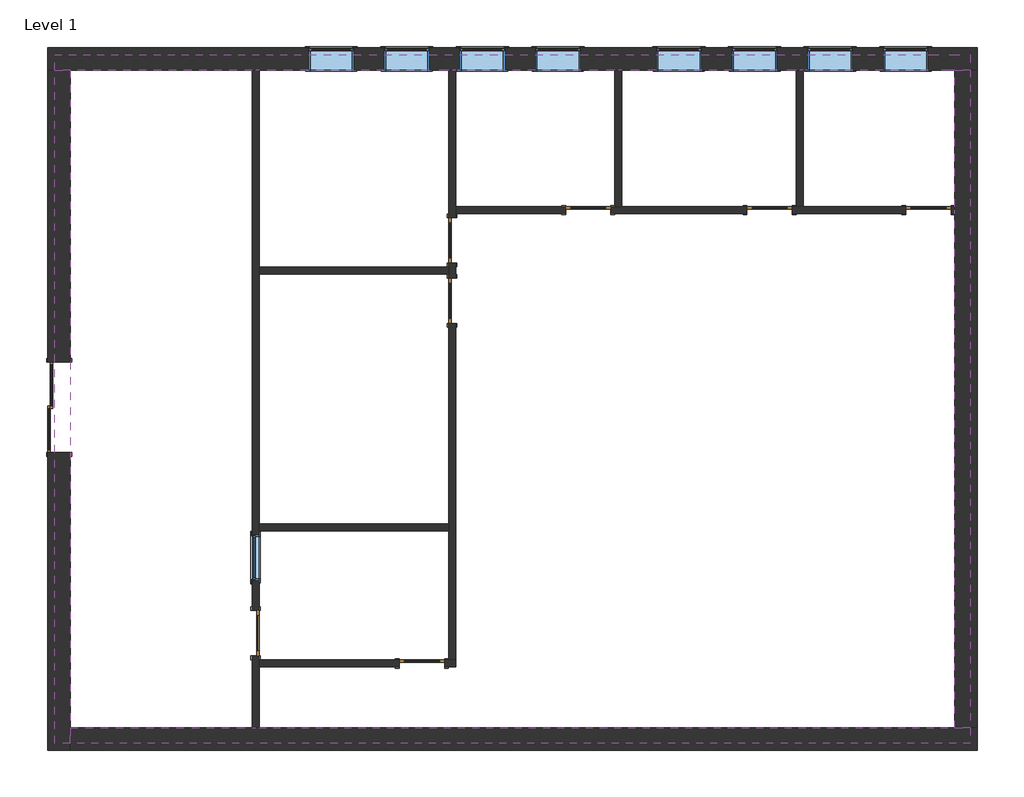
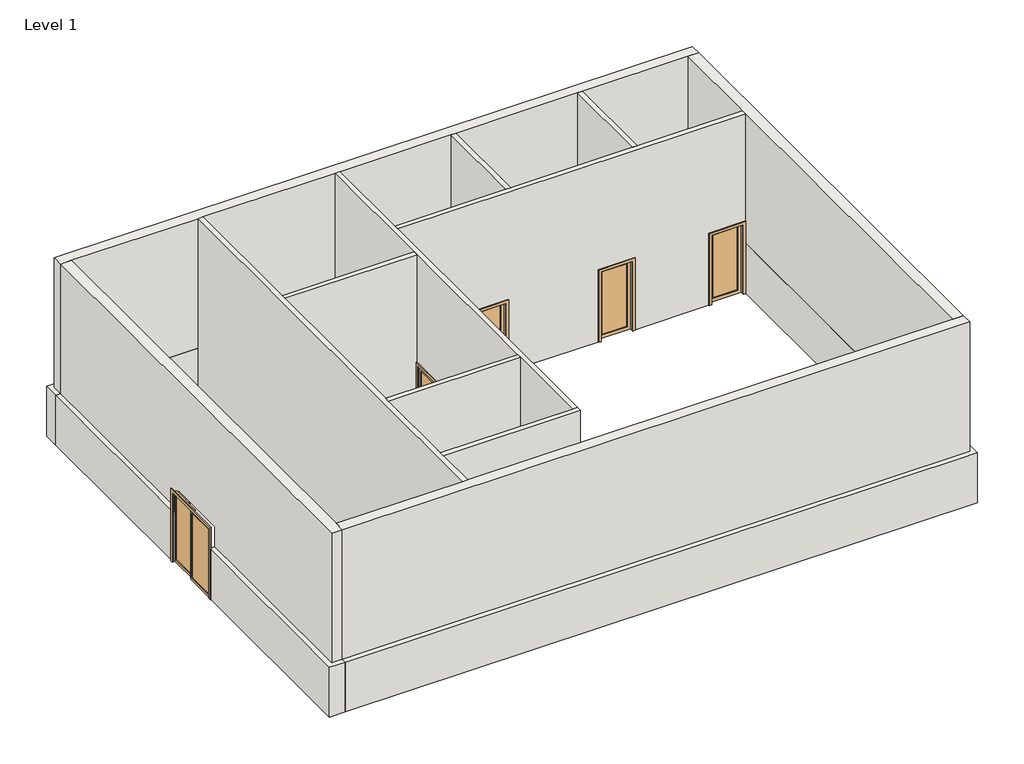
# One storey: 16 walls, 9 windows, 8 doors.
"""IFC4 building model written with IfcOpenShell, lengths in millimetres."""

from ifc_helpers import new_model, si_unit, origin, origin_with_axes, place, context, project, spatial, polyline, outline, extrude, faceted_brep, transform, mapped, element, save
from components import door_e49b49a8, door_4364fc02, door_77bef7fc, window_847ece41, window_8f1c9775, window_29cdd4cc

model = new_model("IFC4")

# Units and contexts
model_context = context("Model", 3, world=origin())
ifc_project = project(units=[si_unit("LENGTHUNIT", "METRE", prefix="MILLI")], contexts=[model_context])

# Site, building, storey
site = spatial("IfcSite", under=ifc_project)
building = spatial("IfcBuilding", under=site)
storey = spatial("IfcBuildingStorey", under=building, Name="Level 1", Elevation=0.0)

# Doors
placement = place(None, origin())
door_shape = door_e49b49a8(model_context)
element("IfcDoor", 1, ObjectType="Single-Glass 1 : 36\" x 84\"", at=placement, inside=storey, context=model_context, shape_type="MappedRepresentation", body=[
    mapped(door_shape, transform((-6880.8228216, -8110.1815151, 0.0), x_axis=(0.0, -1.0, 0.0), y_axis=(1.0, 0.0, 0.0), z_axis=(0.0, 0.0, 1.0))),
])
element("IfcDoor", 2, ObjectType="Single-Glass 1 : 36\" x 84\"", at=placement, inside=storey, context=model_context, shape_type="MappedRepresentation", body=[
    mapped(door_shape, transform((-3528.0228216, -8719.7815151, 0.0), x_axis=(1.0, 0.0, 0.0), y_axis=(0.0, 1.0, 0.0), z_axis=(0.0, 0.0, 1.0))),
])
element("IfcDoor", 3, ObjectType="Single-Glass 1 : 36\" x 84\"", at=placement, inside=storey, context=model_context, shape_type="MappedRepresentation", body=[
    mapped(door_shape, transform((-2918.4228216, -1404.5815151, 0.0), x_axis=(0.0, 1.0, 0.0), y_axis=(-1.0, 0.0, 0.0), z_axis=(0.0, 0.0, 1.0))),
])
element("IfcDoor", 4, ObjectType="Single-Glass 1 : 36\" x 84\"", at=placement, inside=storey, context=model_context, shape_type="MappedRepresentation", body=[
    mapped(door_shape, transform((-175.2228216, 424.2184849, 0.0), x_axis=(1.0, 0.0, 0.0), y_axis=(0.0, 1.0, 0.0), z_axis=(0.0, 0.0, 1.0))),
])
element("IfcDoor", 5, ObjectType="Single-Glass 1 : 36\" x 84\"", at=placement, inside=storey, context=model_context, shape_type="MappedRepresentation", body=[
    mapped(door_shape, transform((3482.3771784, 424.2184849, 0.0), x_axis=(1.0, 0.0, 0.0), y_axis=(0.0, 1.0, 0.0), z_axis=(0.0, 0.0, 1.0))),
])
element("IfcDoor", 6, ObjectType="Single-Glass 1 : 36\" x 84\"", at=placement, inside=storey, context=model_context, shape_type="MappedRepresentation", body=[
    mapped(door_shape, transform((6682.7771784, 424.2184849, 0.0), x_axis=(1.0, 0.0, 0.0), y_axis=(0.0, 1.0, 0.0), z_axis=(0.0, 0.0, 1.0))),
])
door_2_shape = door_4364fc02(model_context)
element("IfcDoor", 7, ObjectType="Single-Glass 1 : 36\" x 84\"", at=placement, inside=storey, context=model_context, shape_type="MappedRepresentation", body=[
    mapped(door_2_shape, transform((-2918.4228216, -185.3815151, 0.0), x_axis=(0.0, -1.0, 0.0), y_axis=(1.0, 0.0, 0.0), z_axis=(0.0, 0.0, 1.0))),
])
door_3_shape = door_77bef7fc(model_context)
element("IfcDoor", 8, ObjectType="Sliding-2 panel : 72\" x 84\"", at=placement, inside=storey, context=model_context, shape_type="MappedRepresentation", body=[
    mapped(door_3_shape, transform((-10716.2228216, -3555.1790911, 0.0), x_axis=(0.0, 1.0, 0.0), y_axis=(-1.0, 0.0, 0.0), z_axis=(0.0, 0.0, 1.0))),
])

# Walls
element("IfcWall", 9, ObjectType="Exterior - CMU on Mtl. Stud", at=placement, inside=storey, context=model_context, shape_type="Brep", body=[
    faceted_brep([(-11070.2353216, 3245.2059849, 0.0), (-10616.2103216, 3245.2059849, 0.0), (-6950.6728216, 3245.2059849, 0.0), (-6810.9728216, 3245.2059849, 0.0), (-2988.2728216, 3245.2059849, 0.0), (-2848.5728216, 3245.2059849, 0.0), (364.5271784, 3245.2059849, 0.0), (504.2271784, 3245.2059849, 0.0), (4022.1271784, 3245.2059849, 0.0), (4161.8271784, 3245.2059849, 0.0), (7217.7646784, 3245.2059849, 0.0), (7671.7896784, 3245.2059849, 0.0), (7671.7896784, 3245.2059849, 1524.0), (7528.9146784, 3245.2059849, 1524.0), (7217.7646784, 3245.2059849, 1524.0), (6682.7771784, 3245.2059849, 1524.0), (6682.7771784, 3245.2059849, 914.4), (5768.3771784, 3245.2059849, 914.4), (5768.3771784, 3245.2059849, 1524.0), (5158.7771784, 3245.2059849, 1524.0), (5158.7771784, 3245.2059849, 914.4), (4244.3771784, 3245.2059849, 914.4), (4244.3771784, 3245.2059849, 1524.0), (3634.7771784, 3245.2059849, 1524.0), (3634.7771784, 3245.2059849, 914.4), (2720.3771784, 3245.2059849, 914.4), (2720.3771784, 3245.2059849, 1524.0), (2110.7771784, 3245.2059849, 1524.0), (2110.7771784, 3245.2059849, 914.4), (1196.3771784, 3245.2059849, 914.4), (1196.3771784, 3245.2059849, 1524.0), (-327.6228216, 3245.2059849, 1524.0), (-327.6228216, 3245.2059849, 914.4), (-1242.0228216, 3245.2059849, 914.4), (-1242.0228216, 3245.2059849, 1524.0), (-1851.6228216, 3245.2059849, 1524.0), (-1851.6228216, 3245.2059849, 914.4), (-2766.0228216, 3245.2059849, 914.4), (-2766.0228216, 3245.2059849, 1524.0), (-3375.6228216, 3245.2059849, 1524.0), (-3375.6228216, 3245.2059849, 914.4), (-4290.0228216, 3245.2059849, 914.4), (-4290.0228216, 3245.2059849, 1524.0), (-4899.6228216, 3245.2059849, 1524.0), (-4899.6228216, 3245.2059849, 914.4), (-5814.0228216, 3245.2059849, 914.4), (-5814.0228216, 3245.2059849, 1524.0), (-10616.2103216, 3245.2059849, 1524.0), (-10927.3603216, 3245.2059849, 1524.0), (-11070.2353216, 3245.2059849, 1524.0), (7671.7896784, 3699.2309849, 0.0), (-11070.2353216, 3699.2309849, 0.0), (-11070.2353216, 3699.2309849, 1524.0), (-5814.0228216, 3699.2309849, 1524.0), (-5814.0228216, 3699.2309849, 914.4), (-4899.6228216, 3699.2309849, 914.4), (-4899.6228216, 3699.2309849, 1524.0), (-4290.0228216, 3699.2309849, 1524.0), (-4290.0228216, 3699.2309849, 914.4), (-3375.6228216, 3699.2309849, 914.4), (-3375.6228216, 3699.2309849, 1524.0), (-2766.0228216, 3699.2309849, 1524.0), (-2766.0228216, 3699.2309849, 914.4), (-1851.6228216, 3699.2309849, 914.4), (-1851.6228216, 3699.2309849, 1524.0), (-1242.0228216, 3699.2309849, 1524.0), (-1242.0228216, 3699.2309849, 914.4), (-327.6228216, 3699.2309849, 914.4), (-327.6228216, 3699.2309849, 1524.0), (1196.3771784, 3699.2309849, 1524.0), (1196.3771784, 3699.2309849, 914.4), (2110.7771784, 3699.2309849, 914.4), (2110.7771784, 3699.2309849, 1524.0), (2720.3771784, 3699.2309849, 1524.0), (2720.3771784, 3699.2309849, 914.4), (3634.7771784, 3699.2309849, 914.4), (3634.7771784, 3699.2309849, 1524.0), (4244.3771784, 3699.2309849, 1524.0), (4244.3771784, 3699.2309849, 914.4), (5158.7771784, 3699.2309849, 914.4), (5158.7771784, 3699.2309849, 1524.0), (5768.3771784, 3699.2309849, 1524.0), (5768.3771784, 3699.2309849, 914.4), (6682.7771784, 3699.2309849, 914.4), (6682.7771784, 3699.2309849, 1524.0), (7671.7896784, 3699.2309849, 1524.0), (-5814.0228216, 3556.3559849, 1524.0), (6682.7771784, 3556.3559849, 1524.0), (5158.7771784, 3556.3559849, 1524.0), (5768.3771784, 3556.3559849, 1524.0), (4244.3771784, 3556.3559849, 1524.0), (3634.7771784, 3556.3559849, 1524.0), (2720.3771784, 3556.3559849, 1524.0), (2110.7771784, 3556.3559849, 1524.0), (1196.3771784, 3556.3559849, 1524.0), (-327.6228216, 3556.3559849, 1524.0), (-1242.0228216, 3556.3559849, 1524.0), (-1851.6228216, 3556.3559849, 1524.0), (-2766.0228216, 3556.3559849, 1524.0), (-3375.6228216, 3556.3559849, 1524.0), (-4899.6228216, 3556.3559849, 1524.0), (-4290.0228216, 3556.3559849, 1524.0)], [[[0, 1, 2, 3, 4, 5, 6, 7, 8, 9, 10, 11, 12, 13, 14, 15, 16, 17, 18, 19, 20, 21, 22, 23, 24, 25, 26, 27, 28, 29, 30, 31, 32, 33, 34, 35, 36, 37, 38, 39, 40, 41, 42, 43, 44, 45, 46, 47, 48, 49]], [[50, 51, 52, 53, 54, 55, 56, 57, 58, 59, 60, 61, 62, 63, 64, 65, 66, 67, 68, 69, 70, 71, 72, 73, 74, 75, 76, 77, 78, 79, 80, 81, 82, 83, 84, 85]], [[11, 10, 9, 8, 7, 6, 5, 4, 3, 2, 1, 0, 51, 50]], [[52, 49, 48, 47, 46, 86, 53]], [[12, 85, 84, 87, 15, 14, 13]], [[80, 88, 19, 18, 89, 81]], [[22, 90, 77, 76, 91, 23]], [[26, 92, 73, 72, 93, 27]], [[30, 94, 69, 68, 95, 31]], [[34, 96, 65, 64, 97, 35]], [[38, 98, 61, 60, 99, 39]], [[56, 100, 43, 42, 101, 57]], [[0, 49, 52, 51]], [[12, 11, 50, 85]], [[79, 20, 19, 88, 80]], [[20, 79, 78, 21]], [[21, 78, 77, 90, 22]], [[83, 16, 15, 87, 84]], [[16, 83, 82, 17]], [[17, 82, 81, 89, 18]], [[75, 24, 23, 91, 76]], [[24, 75, 74, 25]], [[25, 74, 73, 92, 26]], [[71, 28, 27, 93, 72]], [[28, 71, 70, 29]], [[29, 70, 69, 94, 30]], [[33, 66, 65, 96, 34]], [[66, 33, 32, 67]], [[67, 32, 31, 95, 68]], [[37, 62, 61, 98, 38]], [[62, 37, 36, 63]], [[63, 36, 35, 97, 64]], [[45, 54, 53, 86, 46]], [[54, 45, 44, 55]], [[55, 44, 43, 100, 56]], [[41, 58, 57, 101, 42]], [[58, 41, 40, 59]], [[59, 40, 39, 99, 60]]]),
])
element("IfcWall", 10, ObjectType="Exterior - CMU on Mtl. Stud", at=placement, inside=storey, context=model_context, shape_type="Brep", body=[
    faceted_brep([(-10616.2103216, 3245.2059849, 0.0), (-10616.2103216, 3245.2059849, 1524.0), (-10616.2103216, -2640.7790911, 1524.0), (-10616.2103216, -2640.7790911, 0.0), (-11070.2353216, 3245.2059849, 1524.0), (-11070.2353216, 3245.2059849, 0.0), (-11070.2353216, -2640.7790911, 0.0), (-11070.2353216, -2640.7790911, 1524.0), (-10927.3603216, 3245.2059849, 1524.0), (-10927.3603216, -2640.7790911, 1524.0)], [[[0, 1, 2, 3]], [[4, 5, 6, 7]], [[5, 0, 3, 6]], [[1, 8, 4, 7, 9, 2]], [[1, 0, 5, 4, 8]], [[3, 2, 9, 7, 6]]]),
    faceted_brep([(-10616.2103216, -10470.7940151, 1524.0), (-10616.2103216, -10470.7940151, 0.0), (-10616.2103216, -10016.7690151, 0.0), (-10616.2103216, -4469.5790911, 0.0), (-10616.2103216, -4469.5790911, 1524.0), (-10616.2103216, -10016.7690151, 1524.0), (-10616.2103216, -10327.9190151, 1524.0), (-11070.2353216, -10470.7940151, 0.0), (-11070.2353216, -10470.7940151, 1524.0), (-11070.2353216, -4469.5790911, 1524.0), (-11070.2353216, -4469.5790911, 0.0), (-10927.3603216, -4469.5790911, 1524.0)], [[[0, 1, 2, 3, 4, 5, 6]], [[7, 8, 9, 10]], [[1, 7, 10, 3, 2]], [[8, 0, 6, 5, 4, 11, 9]], [[1, 0, 8, 7]], [[4, 3, 10, 9, 11]]]),
])
element("IfcWall", 11, ObjectType="Exterior - CMU on Mtl. Stud", at=placement, inside=storey, context=model_context, shape_type="Brep", body=[
    faceted_brep([(7671.7896784, -10016.7690151, 0.0), (7217.7646784, -10016.7690151, 0.0), (-6810.9728216, -10016.7690151, 0.0), (-6950.6728216, -10016.7690151, 0.0), (-10616.2103216, -10016.7690151, 0.0), (-10616.2103216, -10016.7690151, 1524.0), (7217.7646784, -10016.7690151, 1524.0), (7528.9146784, -10016.7690151, 1524.0), (7671.7896784, -10016.7690151, 1524.0), (7671.7896784, -10470.7940151, 0.0), (7671.7896784, -10470.7940151, 1524.0), (-10616.2103216, -10470.7940151, 1524.0), (-10616.2103216, -10470.7940151, 0.0), (-10616.2103216, -10327.9190151, 1524.0)], [[[0, 1, 2, 3, 4, 5, 6, 7, 8]], [[9, 10, 11, 12]], [[4, 3, 2, 1, 0, 9, 12]], [[8, 7, 6, 5, 13, 11, 10]], [[0, 8, 10, 9]], [[5, 4, 12, 11, 13]]]),
])
element("IfcWall", 12, ObjectType="Exterior - CMU on Mtl. Stud", at=placement, inside=storey, context=model_context, shape_type="Brep", body=[
    faceted_brep([(7217.7646784, 3245.2059849, 0.0), (7217.7646784, -10016.7690151, 0.0), (7217.7646784, -10016.7690151, 1524.0), (7217.7646784, 3245.2059849, 1524.0), (7671.7896784, 3245.2059849, 0.0), (7671.7896784, 3245.2059849, 1524.0), (7671.7896784, -10016.7690151, 1524.0), (7671.7896784, -10016.7690151, 0.0), (7528.9146784, -10016.7690151, 1524.0), (7528.9146784, 3245.2059849, 1524.0)], [[[0, 1, 2, 3]], [[4, 5, 6, 7]], [[1, 0, 4, 7]], [[3, 2, 8, 6, 5, 9]], [[0, 3, 9, 5, 4]], [[2, 1, 7, 6, 8]]]),
])
element("IfcWall", 13, ObjectType="Exterior - EIFS on Mtl. Stud", at=placement, inside=storey, context=model_context, shape_type="Brep", body=[
    faceted_brep([(7528.9146784, 3245.2059849, 5486.4), (7217.7646784, 3245.2059849, 5486.4), (4161.8271784, 3245.2059849, 5486.4), (4022.1271784, 3245.2059849, 5486.4), (504.2271784, 3245.2059849, 5486.4), (364.5271784, 3245.2059849, 5486.4), (-2848.5728216, 3245.2059849, 5486.4), (-2988.2728216, 3245.2059849, 5486.4), (-6810.9728216, 3245.2059849, 5486.4), (-6950.6728216, 3245.2059849, 5486.4), (-10616.2103216, 3245.2059849, 5486.4), (-10927.3603216, 3245.2059849, 5486.4), (-10927.3603216, 3245.2059849, 1524.0), (-10616.2103216, 3245.2059849, 1524.0), (-5814.0228216, 3245.2059849, 1524.0), (-5814.0228216, 3245.2059849, 2133.6), (-4899.6228216, 3245.2059849, 2133.6), (-4899.6228216, 3245.2059849, 1524.0), (-4290.0228216, 3245.2059849, 1524.0), (-4290.0228216, 3245.2059849, 2133.6), (-3375.6228216, 3245.2059849, 2133.6), (-3375.6228216, 3245.2059849, 1524.0), (-2766.0228216, 3245.2059849, 1524.0), (-2766.0228216, 3245.2059849, 2133.6), (-1851.6228216, 3245.2059849, 2133.6), (-1851.6228216, 3245.2059849, 1524.0), (-1242.0228216, 3245.2059849, 1524.0), (-1242.0228216, 3245.2059849, 2133.6), (-327.6228216, 3245.2059849, 2133.6), (-327.6228216, 3245.2059849, 1524.0), (1196.3771784, 3245.2059849, 1524.0), (1196.3771784, 3245.2059849, 2133.6), (2110.7771784, 3245.2059849, 2133.6), (2110.7771784, 3245.2059849, 1524.0), (2720.3771784, 3245.2059849, 1524.0), (2720.3771784, 3245.2059849, 2133.6), (3634.7771784, 3245.2059849, 2133.6), (3634.7771784, 3245.2059849, 1524.0), (4244.3771784, 3245.2059849, 1524.0), (4244.3771784, 3245.2059849, 2133.6), (5158.7771784, 3245.2059849, 2133.6), (5158.7771784, 3245.2059849, 1524.0), (5768.3771784, 3245.2059849, 1524.0), (5768.3771784, 3245.2059849, 2133.6), (6682.7771784, 3245.2059849, 2133.6), (6682.7771784, 3245.2059849, 1524.0), (7217.7646784, 3245.2059849, 1524.0), (7528.9146784, 3245.2059849, 1524.0), (-10927.3603216, 3556.3559849, 5486.4), (7528.9146784, 3556.3559849, 5486.4), (7528.9146784, 3556.3559849, 1524.0), (6682.7771784, 3556.3559849, 1524.0), (6682.7771784, 3556.3559849, 2133.6), (5768.3771784, 3556.3559849, 2133.6), (5768.3771784, 3556.3559849, 1524.0), (5158.7771784, 3556.3559849, 1524.0), (5158.7771784, 3556.3559849, 2133.6), (4244.3771784, 3556.3559849, 2133.6), (4244.3771784, 3556.3559849, 1524.0), (3634.7771784, 3556.3559849, 1524.0), (3634.7771784, 3556.3559849, 2133.6), (2720.3771784, 3556.3559849, 2133.6), (2720.3771784, 3556.3559849, 1524.0), (2110.7771784, 3556.3559849, 1524.0), (2110.7771784, 3556.3559849, 2133.6), (1196.3771784, 3556.3559849, 2133.6), (1196.3771784, 3556.3559849, 1524.0), (-327.6228216, 3556.3559849, 1524.0), (-327.6228216, 3556.3559849, 2133.6), (-1242.0228216, 3556.3559849, 2133.6), (-1242.0228216, 3556.3559849, 1524.0), (-1851.6228216, 3556.3559849, 1524.0), (-1851.6228216, 3556.3559849, 2133.6), (-2766.0228216, 3556.3559849, 2133.6), (-2766.0228216, 3556.3559849, 1524.0), (-3375.6228216, 3556.3559849, 1524.0), (-3375.6228216, 3556.3559849, 2133.6), (-4290.0228216, 3556.3559849, 2133.6), (-4290.0228216, 3556.3559849, 1524.0), (-4899.6228216, 3556.3559849, 1524.0), (-4899.6228216, 3556.3559849, 2133.6), (-5814.0228216, 3556.3559849, 2133.6), (-5814.0228216, 3556.3559849, 1524.0), (-10927.3603216, 3556.3559849, 1524.0)], [[[0, 1, 2, 3, 4, 5, 6, 7, 8, 9, 10, 11, 12, 13, 14, 15, 16, 17, 18, 19, 20, 21, 22, 23, 24, 25, 26, 27, 28, 29, 30, 31, 32, 33, 34, 35, 36, 37, 38, 39, 40, 41, 42, 43, 44, 45, 46, 47]], [[48, 49, 50, 51, 52, 53, 54, 55, 56, 57, 58, 59, 60, 61, 62, 63, 64, 65, 66, 67, 68, 69, 70, 71, 72, 73, 74, 75, 76, 77, 78, 79, 80, 81, 82, 83]], [[12, 83, 82, 14, 13]], [[50, 47, 46, 45, 51]], [[41, 55, 54, 42]], [[58, 38, 37, 59]], [[62, 34, 33, 63]], [[66, 30, 29, 67]], [[70, 26, 25, 71]], [[74, 22, 21, 75]], [[17, 79, 78, 18]], [[11, 10, 9, 8, 7, 6, 5, 4, 3, 2, 1, 0, 49, 48]], [[12, 11, 48, 83]], [[0, 47, 50, 49]], [[40, 56, 55, 41]], [[57, 39, 38, 58]], [[56, 40, 39, 57]], [[44, 52, 51, 45]], [[53, 43, 42, 54]], [[52, 44, 43, 53]], [[36, 60, 59, 37]], [[61, 35, 34, 62]], [[60, 36, 35, 61]], [[32, 64, 63, 33]], [[65, 31, 30, 66]], [[64, 32, 31, 65]], [[69, 27, 26, 70]], [[28, 68, 67, 29]], [[27, 69, 68, 28]], [[73, 23, 22, 74]], [[24, 72, 71, 25]], [[23, 73, 72, 24]], [[81, 15, 14, 82]], [[16, 80, 79, 17]], [[15, 81, 80, 16]], [[77, 19, 18, 78]], [[20, 76, 75, 21]], [[19, 77, 76, 20]]]),
])
element("IfcWall", 14, ObjectType="Exterior - EIFS on Mtl. Stud", at=placement, inside=storey, context=model_context, shape_type="Brep", body=[
    faceted_brep([(-10616.2103216, 3245.2059849, 5486.4), (-10616.2103216, -10016.7690151, 5486.4), (-10616.2103216, -10327.9190151, 5486.4), (-10616.2103216, -10327.9190151, 1524.0), (-10616.2103216, -10016.7690151, 1524.0), (-10616.2103216, -4469.5790911, 1524.0), (-10616.2103216, -4469.5790911, 2133.6), (-10616.2103216, -2640.7790911, 2133.6), (-10616.2103216, -2640.7790911, 1524.0), (-10616.2103216, 3245.2059849, 1524.0), (-10927.3603216, -10327.9190151, 5486.4), (-10927.3603216, 3245.2059849, 5486.4), (-10927.3603216, 3245.2059849, 1524.0), (-10927.3603216, -2640.7790911, 1524.0), (-10927.3603216, -2640.7790911, 2133.6), (-10927.3603216, -4469.5790911, 2133.6), (-10927.3603216, -4469.5790911, 1524.0), (-10927.3603216, -10327.9190151, 1524.0)], [[[0, 1, 2, 3, 4, 5, 6, 7, 8, 9]], [[10, 11, 12, 13, 14, 15, 16, 17]], [[3, 17, 16, 5, 4]], [[12, 9, 8, 13]], [[2, 1, 0, 11, 10]], [[3, 2, 10, 17]], [[0, 9, 12, 11]], [[15, 6, 5, 16]], [[7, 14, 13, 8]], [[6, 15, 14, 7]]]),
])
element("IfcWall", 15, ObjectType="Exterior - EIFS on Mtl. Stud", at=placement, inside=storey, context=model_context, shape_type="Brep", body=[
    faceted_brep([(7528.9146784, -10016.7690151, 1524.0), (7217.7646784, -10016.7690151, 1524.0), (-10616.2103216, -10016.7690151, 1524.0), (-10616.2103216, -10016.7690151, 5486.4), (-6950.6728216, -10016.7690151, 5486.4), (-6810.9728216, -10016.7690151, 5486.4), (7217.7646784, -10016.7690151, 5486.4), (7528.9146784, -10016.7690151, 5486.4), (7528.9146784, -10327.9190151, 1524.0), (7528.9146784, -10327.9190151, 5486.4), (-10616.2103216, -10327.9190151, 5486.4), (-10616.2103216, -10327.9190151, 1524.0)], [[[0, 1, 2, 3, 4, 5, 6, 7]], [[8, 9, 10, 11]], [[2, 1, 0, 8, 11]], [[7, 6, 5, 4, 3, 10, 9]], [[0, 7, 9, 8]], [[3, 2, 11, 10]]]),
])
element("IfcWall", 16, ObjectType="Exterior - EIFS on Mtl. Stud", at=placement, inside=storey, context=model_context, shape_type="Brep", body=[
    faceted_brep([(7217.7646784, 3245.2059849, 1524.0), (7217.7646784, -10016.7690151, 1524.0), (7217.7646784, -10016.7690151, 5486.4), (7217.7646784, 354.3684849, 5486.4), (7217.7646784, 494.0684849, 5486.4), (7217.7646784, 3245.2059849, 5486.4), (7528.9146784, 3245.2059849, 1524.0), (7528.9146784, 3245.2059849, 5486.4), (7528.9146784, -10016.7690151, 5486.4), (7528.9146784, -10016.7690151, 1524.0)], [[[0, 1, 2, 3, 4, 5]], [[6, 7, 8, 9]], [[1, 0, 6, 9]], [[5, 4, 3, 2, 8, 7]], [[0, 5, 7, 6]], [[2, 1, 9, 8]]]),
])
element("IfcWall", 17, ObjectType="Interior - 5 1/2\" Partition (1-hr)", at=placement, inside=storey, context=model_context, shape_type="Brep", body=[
    faceted_brep([(-6950.6728216, -8567.3815151, 2133.6), (-6950.6728216, -8567.3815151, 0.0), (-6950.6728216, -10016.7690151, 0.0), (-6950.6728216, -10016.7690151, 5486.4), (-6950.6728216, 3245.2059849, 5486.4), (-6950.6728216, 3245.2059849, 0.0), (-6950.6728216, -7652.9815151, 0.0), (-6950.6728216, -7652.9815151, 2133.6), (-6950.6728216, -6128.9815151, 2133.6), (-6950.6728216, -7043.3815151, 2133.6), (-6950.6728216, -7043.3815151, 914.4), (-6950.6728216, -6128.9815151, 914.4), (-6810.9728216, -10016.7690151, 0.0), (-6810.9728216, -8789.6315151, 0.0), (-6810.9728216, -8649.9315151, 0.0), (-6810.9728216, -8567.3815151, 0.0), (-6810.9728216, -8567.3815151, 2133.6), (-6810.9728216, -7652.9815151, 2133.6), (-6810.9728216, -7652.9815151, 0.0), (-6810.9728216, -6046.4315151, 0.0), (-6810.9728216, -5906.7315151, 0.0), (-6810.9728216, -864.8315151, 0.0), (-6810.9728216, -725.1315151, 0.0), (-6810.9728216, 3245.2059849, 0.0), (-6810.9728216, 3245.2059849, 5486.4), (-6810.9728216, -725.1315151, 5486.4), (-6810.9728216, -864.8315151, 5486.4), (-6810.9728216, -5906.7315151, 5486.4), (-6810.9728216, -6046.4315151, 5486.4), (-6810.9728216, -8649.9315151, 5486.4), (-6810.9728216, -8789.6315151, 5486.4), (-6810.9728216, -10016.7690151, 5486.4), (-6810.9728216, -6128.9815151, 2133.6), (-6810.9728216, -6128.9815151, 914.4), (-6810.9728216, -7043.3815151, 914.4), (-6810.9728216, -7043.3815151, 2133.6)], [[[0, 1, 2, 3, 4, 5, 6, 7], [8, 9, 10, 11]], [[12, 13, 14, 15, 16, 17, 18, 19, 20, 21, 22, 23, 24, 25, 26, 27, 28, 29, 30, 31], [32, 33, 34, 35]], [[6, 5, 23, 22, 21, 20, 19, 18]], [[2, 1, 15, 14, 13, 12]], [[4, 3, 31, 30, 29, 28, 27, 26, 25, 24]], [[2, 12, 31, 3]], [[16, 15, 1, 0]], [[17, 16, 0, 7]], [[18, 17, 7, 6]], [[33, 32, 8, 11]], [[34, 33, 11, 10]], [[35, 34, 10, 9]], [[32, 35, 9, 8]], [[4, 24, 23, 5]]]),
])
element("IfcWall", 18, ObjectType="Interior - 5 1/2\" Partition (1-hr)", at=placement, inside=storey, context=model_context, shape_type="Brep", body=[
    faceted_brep([(-3070.8228216, -8789.6315151, 2133.6), (-3070.8228216, -8789.6315151, 0.0), (-2848.5728216, -8789.6315151, 0.0), (-2848.5728216, -8789.6315151, 5486.4), (-6810.9728216, -8789.6315151, 5486.4), (-6810.9728216, -8789.6315151, 0.0), (-3985.2228216, -8789.6315151, 0.0), (-3985.2228216, -8789.6315151, 2133.6), (-2848.5728216, -8649.9315151, 0.0), (-2988.2728216, -8649.9315151, 0.0), (-3070.8228216, -8649.9315151, 0.0), (-3070.8228216, -8649.9315151, 2133.6), (-3985.2228216, -8649.9315151, 2133.6), (-3985.2228216, -8649.9315151, 0.0), (-6810.9728216, -8649.9315151, 0.0), (-6810.9728216, -8649.9315151, 5486.4), (-2988.2728216, -8649.9315151, 5486.4), (-2848.5728216, -8649.9315151, 5486.4)], [[[0, 1, 2, 3, 4, 5, 6, 7]], [[8, 9, 10, 11, 12, 13, 14, 15, 16, 17]], [[6, 5, 14, 13]], [[2, 1, 10, 9, 8]], [[4, 3, 17, 16, 15]], [[5, 4, 15, 14]], [[3, 2, 8, 17]], [[11, 10, 1, 0]], [[12, 11, 0, 7]], [[13, 12, 7, 6]]]),
])
element("IfcWall", 19, ObjectType="Interior - 5 1/2\" Partition (1-hr)", at=placement, inside=storey, context=model_context, shape_type="Brep", body=[
    faceted_brep([(-2848.5728216, -947.3815151, 0.0), (-2848.5728216, -642.5815151, 0.0), (-2848.5728216, -642.5815151, 2133.6), (-2848.5728216, 271.8184849, 2133.6), (-2848.5728216, 271.8184849, 0.0), (-2848.5728216, 354.3684849, 0.0), (-2848.5728216, 494.0684849, 0.0), (-2848.5728216, 3245.2059849, 0.0), (-2848.5728216, 3245.2059849, 5486.4), (-2848.5728216, 494.0684849, 5486.4), (-2848.5728216, 354.3684849, 5486.4), (-2848.5728216, -8649.9315151, 5486.4), (-2848.5728216, -8649.9315151, 0.0), (-2848.5728216, -1861.7815151, 0.0), (-2848.5728216, -1861.7815151, 2133.6), (-2848.5728216, -947.3815151, 2133.6), (-2988.2728216, -642.5815151, 2133.6), (-2988.2728216, -642.5815151, 0.0), (-2988.2728216, -725.1315151, 0.0), (-2988.2728216, -864.8315151, 0.0), (-2988.2728216, -947.3815151, 0.0), (-2988.2728216, -947.3815151, 2133.6), (-2988.2728216, -1861.7815151, 2133.6), (-2988.2728216, -1861.7815151, 0.0), (-2988.2728216, -5906.7315151, 0.0), (-2988.2728216, -6046.4315151, 0.0), (-2988.2728216, -8649.9315151, 0.0), (-2988.2728216, -8649.9315151, 5486.4), (-2988.2728216, -6046.4315151, 5486.4), (-2988.2728216, -5906.7315151, 5486.4), (-2988.2728216, -864.8315151, 5486.4), (-2988.2728216, -725.1315151, 5486.4), (-2988.2728216, 3245.2059849, 5486.4), (-2988.2728216, 3245.2059849, 0.0), (-2988.2728216, 271.8184849, 0.0), (-2988.2728216, 271.8184849, 2133.6)], [[[0, 1, 2, 3, 4, 5, 6, 7, 8, 9, 10, 11, 12, 13, 14, 15]], [[16, 17, 18, 19, 20, 21, 22, 23, 24, 25, 26, 27, 28, 29, 30, 31, 32, 33, 34, 35]], [[13, 12, 26, 25, 24, 23]], [[34, 33, 7, 6, 5, 4]], [[20, 19, 18, 17, 1, 0]], [[11, 10, 9, 8, 32, 31, 30, 29, 28, 27]], [[12, 11, 27, 26]], [[21, 20, 0, 15]], [[22, 21, 15, 14]], [[23, 22, 14, 13]], [[2, 1, 17, 16]], [[3, 2, 16, 35]], [[4, 3, 35, 34]], [[7, 33, 32, 8]]]),
])
element("IfcWall", 20, ObjectType="Interior - 5 1/2\" Partition (1-hr)", at=placement, inside=storey, context=model_context, shape_type="Brep", body=[
    faceted_brep([(-2848.5728216, 494.0684849, 5486.4), (364.5271784, 494.0684849, 5486.4), (504.2271784, 494.0684849, 5486.4), (4022.1271784, 494.0684849, 5486.4), (4161.8271784, 494.0684849, 5486.4), (7217.7646784, 494.0684849, 5486.4), (7217.7646784, 494.0684849, 0.0), (7139.9771784, 494.0684849, 0.0), (7139.9771784, 494.0684849, 2133.6), (6225.5771784, 494.0684849, 2133.6), (6225.5771784, 494.0684849, 0.0), (4161.8271784, 494.0684849, 0.0), (4022.1271784, 494.0684849, 0.0), (3939.5771784, 494.0684849, 0.0), (3939.5771784, 494.0684849, 2133.6), (3025.1771784, 494.0684849, 2133.6), (3025.1771784, 494.0684849, 0.0), (504.2271784, 494.0684849, 0.0), (364.5271784, 494.0684849, 0.0), (281.9771784, 494.0684849, 0.0), (281.9771784, 494.0684849, 2133.6), (-632.4228216, 494.0684849, 2133.6), (-632.4228216, 494.0684849, 0.0), (-2848.5728216, 494.0684849, 0.0), (7217.7646784, 354.3684849, 5486.4), (-2848.5728216, 354.3684849, 5486.4), (-2848.5728216, 354.3684849, 0.0), (-632.4228216, 354.3684849, 0.0), (-632.4228216, 354.3684849, 2133.6), (281.9771784, 354.3684849, 2133.6), (281.9771784, 354.3684849, 0.0), (3025.1771784, 354.3684849, 0.0), (3025.1771784, 354.3684849, 2133.6), (3939.5771784, 354.3684849, 2133.6), (3939.5771784, 354.3684849, 0.0), (6225.5771784, 354.3684849, 0.0), (6225.5771784, 354.3684849, 2133.6), (7139.9771784, 354.3684849, 2133.6), (7139.9771784, 354.3684849, 0.0), (7217.7646784, 354.3684849, 0.0)], [[[0, 1, 2, 3, 4, 5, 6, 7, 8, 9, 10, 11, 12, 13, 14, 15, 16, 17, 18, 19, 20, 21, 22, 23]], [[24, 25, 26, 27, 28, 29, 30, 31, 32, 33, 34, 35, 36, 37, 38, 39]], [[6, 39, 38, 7]], [[26, 23, 22, 27]], [[30, 19, 18, 17, 16, 31]], [[34, 13, 12, 11, 10, 35]], [[5, 4, 3, 2, 1, 0, 25, 24]], [[39, 6, 5, 24]], [[0, 23, 26, 25]], [[20, 19, 30, 29]], [[21, 20, 29, 28]], [[22, 21, 28, 27]], [[14, 13, 34, 33]], [[15, 14, 33, 32]], [[16, 15, 32, 31]], [[8, 37, 36, 9]], [[9, 36, 35, 10]], [[37, 8, 7, 38]]]),
])
element("IfcWall", 21, ObjectType="Interior - 5 1/2\" Partition (1-hr)", at=placement, inside=storey, context=model_context, shape_type="SweptSolid", body=[
    extrude(outline(polyline([(364.5271784, 494.0684849), (364.5271784, 3245.2059849), (504.2271784, 3245.2059849), (504.2271784, 494.0684849), (364.5271784, 494.0684849)])), origin_with_axes(), (0.0, 0.0, 1.0), 5486.4),
])
element("IfcWall", 22, ObjectType="Interior - 5 1/2\" Partition (1-hr)", at=placement, inside=storey, context=model_context, shape_type="SweptSolid", body=[
    extrude(outline(polyline([(4022.1271784, 494.0684849), (4022.1271784, 3245.2059849), (4161.8271784, 3245.2059849), (4161.8271784, 494.0684849), (4022.1271784, 494.0684849)])), origin_with_axes(), (0.0, 0.0, 1.0), 5486.4),
])
element("IfcWall", 23, ObjectType="Interior - 5 1/2\" Partition (1-hr)", at=placement, inside=storey, context=model_context, shape_type="SweptSolid", body=[
    extrude(outline(polyline([(-2988.2728216, -864.8315151), (-6810.9728216, -864.8315151), (-6810.9728216, -725.1315151), (-2988.2728216, -725.1315151), (-2988.2728216, -864.8315151)])), origin_with_axes(), (0.0, 0.0, 1.0), 5486.4),
])
element("IfcWall", 24, ObjectType="Interior - 5 1/2\" Partition (1-hr)", at=placement, inside=storey, context=model_context, shape_type="SweptSolid", body=[
    extrude(outline(polyline([(-2988.2728216, -6046.4315151), (-6810.9728216, -6046.4315151), (-6810.9728216, -5906.7315151), (-2988.2728216, -5906.7315151), (-2988.2728216, -6046.4315151)])), origin_with_axes(), (0.0, 0.0, 1.0), 5486.4),
])

# Windows
window_shape = window_847ece41(model_context)
element("IfcWindow", 25, ObjectType="Awning with Trim : 36\" x 48\"", at=placement, inside=storey, context=model_context, shape_type="MappedRepresentation", body=[
    mapped(window_shape, transform((-6880.8228216, -6586.1815151, 0.0), x_axis=(0.0, 1.0, 0.0), y_axis=(-1.0, 0.0, 0.0), z_axis=(0.0, 0.0, 1.0))),
])
window_2_shape = window_8f1c9775(model_context)
element("IfcWindow", 26, ObjectType="Awning with Trim : 36\" x 48\"", at=placement, inside=storey, context=model_context, shape_type="MappedRepresentation", body=[
    mapped(window_2_shape, transform((4701.5771784, 3472.2184849, 0.0), x_axis=(1.0, 0.0, 0.0), y_axis=(0.0, 1.0, 0.0), z_axis=(0.0, 0.0, 1.0))),
])
element("IfcWindow", 27, ObjectType="Awning with Trim : 36\" x 48\"", at=placement, inside=storey, context=model_context, shape_type="MappedRepresentation", body=[
    mapped(window_2_shape, transform((6225.5771784, 3472.2184849, 0.0), x_axis=(1.0, 0.0, 0.0), y_axis=(0.0, 1.0, 0.0), z_axis=(0.0, 0.0, 1.0))),
])
element("IfcWindow", 28, ObjectType="Awning with Trim : 36\" x 48\"", at=placement, inside=storey, context=model_context, shape_type="MappedRepresentation", body=[
    mapped(window_2_shape, transform((3177.5771784, 3472.2184849, 0.0), x_axis=(1.0, 0.0, 0.0), y_axis=(0.0, 1.0, 0.0), z_axis=(0.0, 0.0, 1.0))),
])
element("IfcWindow", 29, ObjectType="Awning with Trim : 36\" x 48\"", at=placement, inside=storey, context=model_context, shape_type="MappedRepresentation", body=[
    mapped(window_2_shape, transform((1653.5771784, 3472.2184849, 0.0), x_axis=(1.0, 0.0, 0.0), y_axis=(0.0, 1.0, 0.0), z_axis=(0.0, 0.0, 1.0))),
])
window_3_shape = window_29cdd4cc(model_context)
element("IfcWindow", 30, ObjectType="Awning with Trim : 36\" x 48\"", at=placement, inside=storey, context=model_context, shape_type="MappedRepresentation", body=[
    mapped(window_3_shape, transform((-3832.8228216, 3472.2184849, 0.0), x_axis=(-1.0, 0.0, 0.0), y_axis=(0.0, -1.0, 0.0), z_axis=(0.0, 0.0, 1.0))),
])
element("IfcWindow", 31, ObjectType="Awning with Trim : 36\" x 48\"", at=placement, inside=storey, context=model_context, shape_type="MappedRepresentation", body=[
    mapped(window_3_shape, transform((-5356.8228216, 3472.2184849, 0.0), x_axis=(-1.0, 0.0, 0.0), y_axis=(0.0, -1.0, 0.0), z_axis=(0.0, 0.0, 1.0))),
])
element("IfcWindow", 32, ObjectType="Awning with Trim : 36\" x 48\"", at=placement, inside=storey, context=model_context, shape_type="MappedRepresentation", body=[
    mapped(window_3_shape, transform((-2308.8228216, 3472.2184849, 0.0), x_axis=(-1.0, 0.0, 0.0), y_axis=(0.0, -1.0, 0.0), z_axis=(0.0, 0.0, 1.0))),
])
element("IfcWindow", 33, ObjectType="Awning with Trim : 36\" x 48\"", at=placement, inside=storey, context=model_context, shape_type="MappedRepresentation", body=[
    mapped(window_3_shape, transform((-784.8228216, 3472.2184849, 0.0), x_axis=(-1.0, 0.0, 0.0), y_axis=(0.0, -1.0, 0.0), z_axis=(0.0, 0.0, 1.0))),
])

save(model, "model.ifc")
